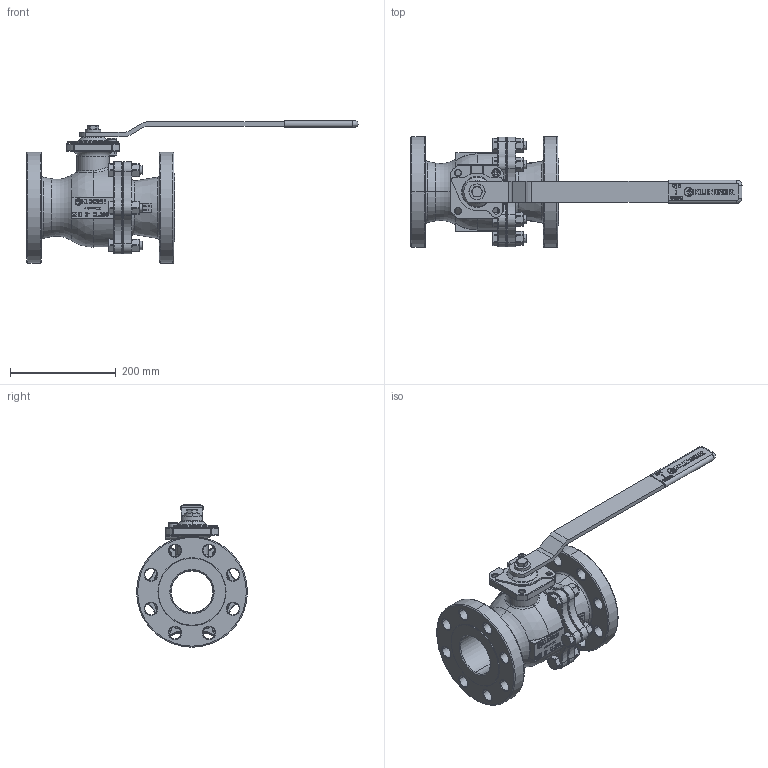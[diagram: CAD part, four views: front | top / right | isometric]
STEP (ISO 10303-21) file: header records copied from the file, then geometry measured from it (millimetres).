
FILE_DESCRIPTION((''),'2;1');
FILE_NAME('KHEFS-3-VFS-3-C300PKK','2015-08-11T',('mahrhauserh'),('RAND'),'PRO/ENGINEER BY PARAMETRIC TECHNOLOGY CORPORATION, 2013410','PRO/ENGINEER BY PARAMETRIC TECHNOLOGY CORPORATION, 2013410','');
FILE_SCHEMA(('CONFIG_CONTROL_DESIGN'));
Products named in the file (1): KHEFS-3-VFS-3-C300PKK
Bounding box: 629 x 210 x 269.75 mm (x, y, z)
Volume: 3825558.9 mm3; surface area: 644932.3 mm2
Topology: 1 solids, 3 shells, 3077 faces, 8150 edges, 5215 vertices
Faces by surface type: plane 1997, cylinder 445, torus 305, cone 224, bspline 90, sphere 16
Entity records: 110832 total; most frequent: CARTESIAN_POINT 34244, ORIENTED_EDGE 16296, DIRECTION 15426, EDGE_CURVE 8148, VECTOR 5804, LINE 5804, VERTEX_POINT 5215, AXIS2_PLACEMENT_3D 4811
